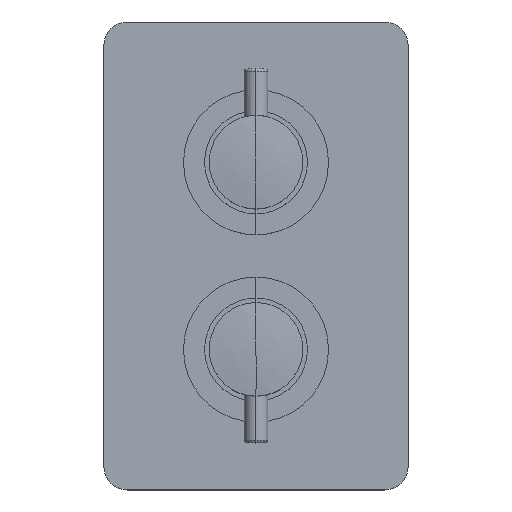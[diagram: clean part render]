
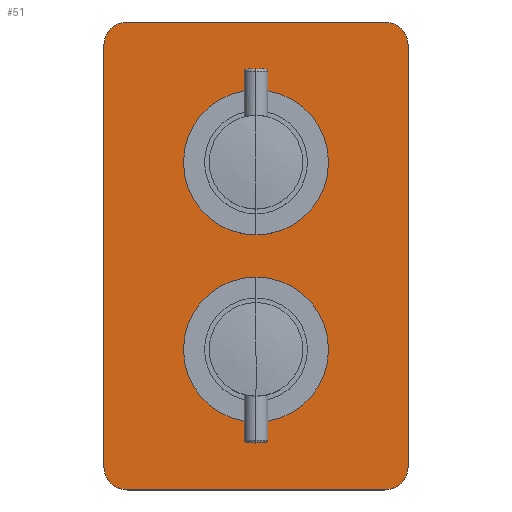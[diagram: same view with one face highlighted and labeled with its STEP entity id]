
A CAD part, top view. The second image highlights one B-rep face of the part: STEP entity #51.
In plain terms, the highlighted planar face has unit normal (0, 0, 1).
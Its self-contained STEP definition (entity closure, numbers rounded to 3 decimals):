
#51 = ADVANCED_FACE('',(#52),#122,.T.);
#52 = FACE_BOUND('',#53,.T.);
#53 = EDGE_LOOP('',(#54,#65,#73,#82,#90,#99,#107,#116));
#54 = ORIENTED_EDGE('',*,*,#55,.T.);
#55 = EDGE_CURVE('',#56,#58,#60,.T.);
#56 = VERTEX_POINT('',#57);
#57 = CARTESIAN_POINT('',(-55.,100.,5.
    ));
#58 = VERTEX_POINT('',#59);
#59 = CARTESIAN_POINT('',(-65.,90.,5.
    ));
#60 = CIRCLE('',#61,10.);
#61 = AXIS2_PLACEMENT_3D('',#62,#63,#64);
#62 = CARTESIAN_POINT('',(-55.,90.,5.
    ));
#63 = DIRECTION('',(0.,0.,1.));
#64 = DIRECTION('',(1.,0.,-0.));
#65 = ORIENTED_EDGE('',*,*,#66,.T.);
#66 = EDGE_CURVE('',#58,#67,#69,.T.);
#67 = VERTEX_POINT('',#68);
#68 = CARTESIAN_POINT('',(-65.,-90.,5.));
#69 = LINE('',#70,#71);
#70 = CARTESIAN_POINT('',(-65.,90.,5.
    ));
#71 = VECTOR('',#72,1.);
#72 = DIRECTION('',(0.,-1.,0.));
#73 = ORIENTED_EDGE('',*,*,#74,.T.);
#74 = EDGE_CURVE('',#67,#75,#77,.T.);
#75 = VERTEX_POINT('',#76);
#76 = CARTESIAN_POINT('',(-55.,-100.,5.));
#77 = CIRCLE('',#78,10.);
#78 = AXIS2_PLACEMENT_3D('',#79,#80,#81);
#79 = CARTESIAN_POINT('',(-55.,-90.,5.));
#80 = DIRECTION('',(0.,0.,1.));
#81 = DIRECTION('',(1.,0.,-0.));
#82 = ORIENTED_EDGE('',*,*,#83,.T.);
#83 = EDGE_CURVE('',#75,#84,#86,.T.);
#84 = VERTEX_POINT('',#85);
#85 = CARTESIAN_POINT('',(55.,-100.,5.));
#86 = LINE('',#87,#88);
#87 = CARTESIAN_POINT('',(-55.,-100.,5.));
#88 = VECTOR('',#89,1.);
#89 = DIRECTION('',(1.,0.,0.));
#90 = ORIENTED_EDGE('',*,*,#91,.T.);
#91 = EDGE_CURVE('',#84,#92,#94,.T.);
#92 = VERTEX_POINT('',#93);
#93 = CARTESIAN_POINT('',(65.,-90.,5.));
#94 = CIRCLE('',#95,10.);
#95 = AXIS2_PLACEMENT_3D('',#96,#97,#98);
#96 = CARTESIAN_POINT('',(55.,-90.,5.));
#97 = DIRECTION('',(0.,0.,1.));
#98 = DIRECTION('',(1.,0.,-0.));
#99 = ORIENTED_EDGE('',*,*,#100,.T.);
#100 = EDGE_CURVE('',#92,#101,#103,.T.);
#101 = VERTEX_POINT('',#102);
#102 = CARTESIAN_POINT('',(65.,90.,
    5.));
#103 = LINE('',#104,#105);
#104 = CARTESIAN_POINT('',(65.,-90.,5.));
#105 = VECTOR('',#106,1.);
#106 = DIRECTION('',(0.,1.,0.));
#107 = ORIENTED_EDGE('',*,*,#108,.T.);
#108 = EDGE_CURVE('',#101,#109,#111,.T.);
#109 = VERTEX_POINT('',#110);
#110 = CARTESIAN_POINT('',(55.,100.,
    5.));
#111 = CIRCLE('',#112,10.);
#112 = AXIS2_PLACEMENT_3D('',#113,#114,#115);
#113 = CARTESIAN_POINT('',(55.,90.,
    5.));
#114 = DIRECTION('',(0.,0.,1.));
#115 = DIRECTION('',(1.,0.,-0.));
#116 = ORIENTED_EDGE('',*,*,#117,.T.);
#117 = EDGE_CURVE('',#109,#56,#118,.T.);
#118 = LINE('',#119,#120);
#119 = CARTESIAN_POINT('',(55.,100.,
    5.));
#120 = VECTOR('',#121,1.);
#121 = DIRECTION('',(-1.,0.,0.));
#122 = PLANE('',#123);
#123 = AXIS2_PLACEMENT_3D('',#124,#125,#126);
#124 = CARTESIAN_POINT('',(-45.,90.,
    5.));
#125 = DIRECTION('',(0.,0.,1.));
#126 = DIRECTION('',(0.,1.,0.));
